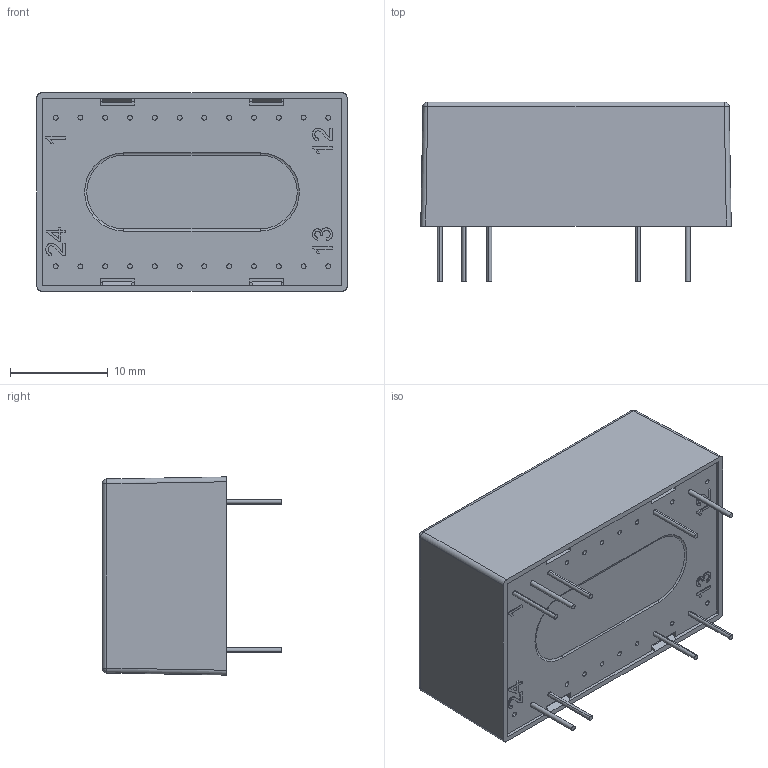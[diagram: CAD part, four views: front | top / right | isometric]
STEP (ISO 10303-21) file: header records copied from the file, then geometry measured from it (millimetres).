
FILE_DESCRIPTION (( 'STEP AP203' ), '1' );
FILE_NAME ('EC6AW-110 DIP-1121002.STEP', '2023-10-13T08:17:26', ( 'cincon' ), ( '' ), 'SwSTEP 2.0', 'SolidWorks 2020', '' );
FILE_SCHEMA (( 'CONFIG_CONTROL_DESIGN' ));
Length unit declared in the file: millimetre
Products named in the file (1): EC6AW-110 DIP-1121002
Bounding box: 31.8 x 18.4 x 20.3 mm (x, y, z)
Volume: 1814.7 mm3; surface area: 5137.5 mm2
Topology: 1 solids, 29 shells, 841 faces, 2097 edges, 1354 vertices
Faces by surface type: plane 466, cylinder 281, bspline 88, sphere 4, torus 2
Entity records: 30666 total; most frequent: CARTESIAN_POINT 10549, ORIENTED_EDGE 4186, DIRECTION 4091, EDGE_CURVE 2093, AXIS2_PLACEMENT_3D 1432, VERTEX_POINT 1354, VECTOR 1227, LINE 1227
